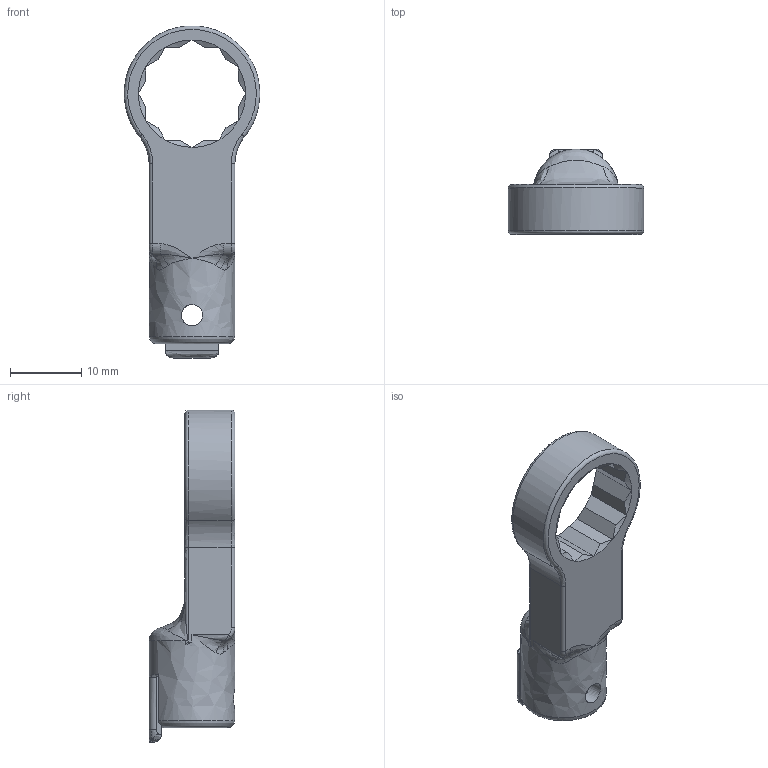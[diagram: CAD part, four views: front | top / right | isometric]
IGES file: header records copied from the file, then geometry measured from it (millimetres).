
Global section: file name: RH8DX13; native system: Autodesk Inventor 2016; preprocessor: unknown; author: Q600; date: 20151110.153609; units: millimetre
Bounding box: 19 x 12 x 46.48 mm (x, y, z)
Volume: 2995.1 mm3; surface area: 2316.8 mm2
Topology: 1 solids, 1 shells, 131 faces, 314 edges, 173 vertices
Faces by surface type: bspline 131
